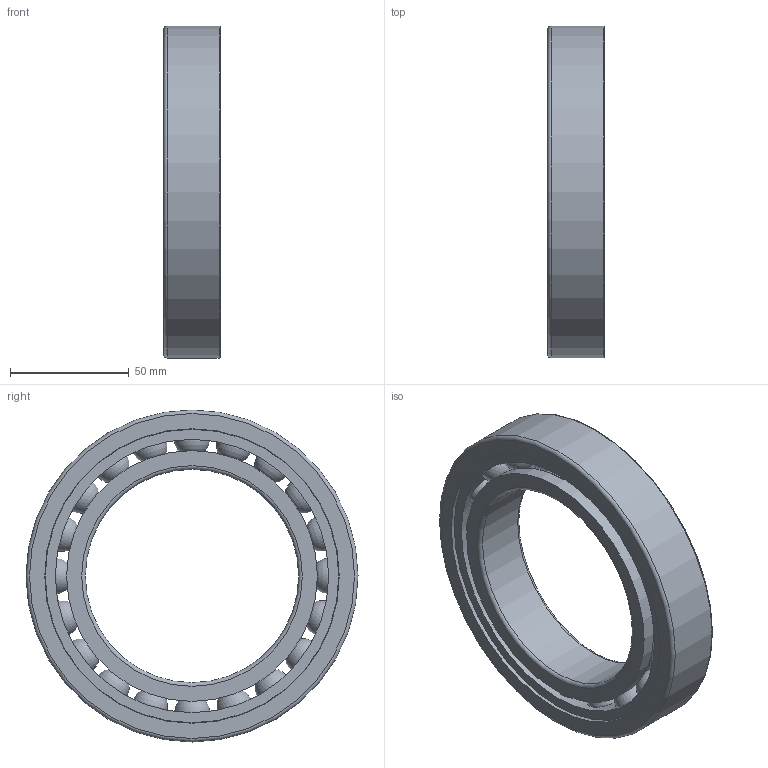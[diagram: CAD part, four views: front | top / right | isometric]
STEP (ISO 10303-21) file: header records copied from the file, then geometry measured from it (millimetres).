
FILE_DESCRIPTION(/* description */ (''),/* implementation_level */ '2;1');
FILE_NAME(/* name */ 'SM_6018_TA.step',/* time_stamp */ '2013-03-11T11:34:57+01:00',/* author */ ('Marian'),/* organization */ ('GMN'),/* preprocessor_version */ 'ST-DEVELOPER v11',/* originating_system */ 'SIEMENS UGS NX 6.0',/* authorisation */ '');
FILE_SCHEMA (('CONFIG_CONTROL_DESIGN'));
Length unit declared in the file: millimetre
Products named in the file (1): SM_6018_TA
Bounding box: 24 x 140 x 140 mm (x, y, z)
Volume: 162280 mm3; surface area: 75224.4 mm2
Topology: 23 solids, 23 shells, 60 faces, 158 edges, 102 vertices
Faces by surface type: cylinder 27, sphere 20, torus 6, plane 6, cone 1
Full cylindrical faces by diameter (mm): 15.281 x20, 90 x1, 105.8 x2, 115.301 x1, 123.8 x1, 124.2 x1, 140 x1
Entity records: 1978 total; most frequent: CARTESIAN_POINT 881, DIRECTION 162, FACE_BOUND 140, EDGE_LOOP 120, ORIENTED_EDGE 120, AXIS2_PLACEMENT_3D 81, VERTEX_POINT 80, EDGE_CURVE 60
